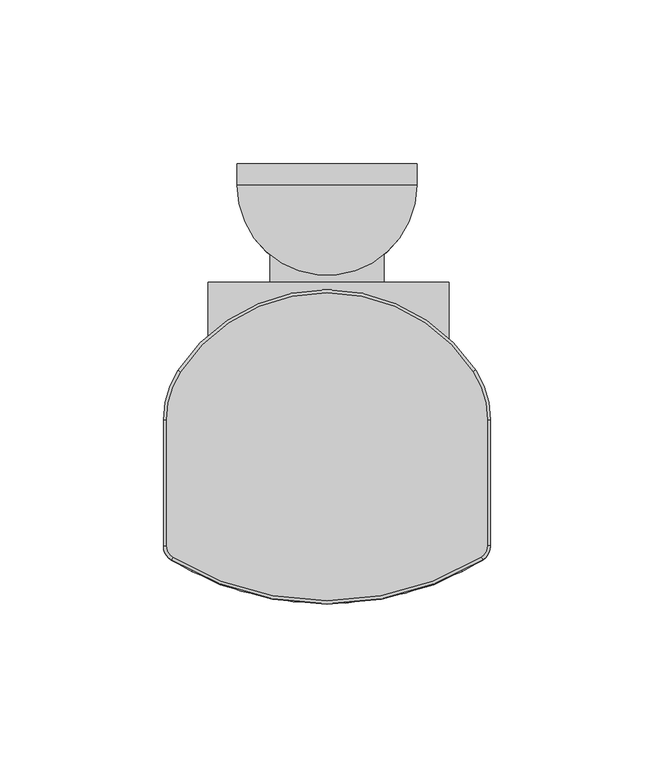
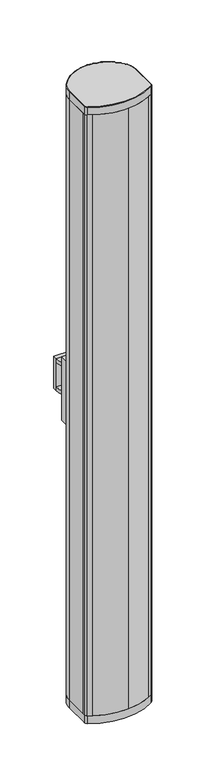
"""IFC4 building model written with IfcOpenShell, lengths in millimetres: proxy geometry, 230208 BIM Data_CU 350T VA-FR : CU 350T VA."""

from ifc_helpers import new_model, si_unit, point, frame, frame_2d, origin, origin_with_axes, place, context, project, spatial, polyline, circle_curve, ellipse_curve, trimmed, segment, composite_curve, outline, extrude, source, transform, mapped, element, save
from ifc_brep_helpers import plane_surface, cylinder_surface, revolved_surface, advanced_brep


def communication_devices_869d7f4c(model_context):
    return source(origin(), model_context, "Body", "SolidModel", [
        advanced_brep(
        [(49.0366046, 8.2957983, 971.015625), (44.6810661, 22.8924691, 971.015625), (-44.6804702, 22.8933787, 971.015625), (-49.0366046, 8.2952532, 971.015625), (-49.0366046, -30.2581238, 971.015625), (-47.1162782, -33.6954984, 971.015625), (47.1162782, -33.6954984, 971.015625), (49.0366046, -30.2581238, 971.015625), (47.6213592, -34.5158786, 958.5615517), (-47.6213592, -34.5158786, 958.5615517), (-50.0, -30.2581238, 958.5615517), (-50.0, 8.2952532, 958.5615517), (-45.4863233, 23.421329, 958.5615517), (45.48693, 23.420403, 958.5615517), (50.0, 8.2957983, 958.5615517), (50.0, -30.2581238, 958.5615517), (50.0, -30.2581238, 970.05223), (47.6213592, -34.5158786, 970.0522296), (50.0, 8.2957983, 970.0522305), (45.48693, 23.420403, 970.0522305), (-45.4863233, 23.421329, 970.0522305), (-50.0, 8.2952532, 970.0522305), (-50.0, -30.2581238, 970.0522296), (-47.6213592, -34.5158786, 970.05223)],
        [
            (0, 1, circle_curve(frame((22.4, 8.2957983, 971.015625), z_axis=(0.0, 0.0, 1.0), x_axis=(1.0, 0.0, 0.0)), 26.6366046)),
            (1, 2, circle_curve(frame((0.0, -6.3787879, 971.015625), z_axis=(0.0, 0.0, 1.0), x_axis=(0.8364829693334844, 0.5479929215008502, 0.0)), 53.4153925)),
            (2, 3, circle_curve(frame((-22.3981731, 8.2952532, 971.015625), z_axis=(0.0, 0.0, 1.0), x_axis=(-0.8364718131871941, 0.548009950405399, 0.0)), 26.6384315)),
            (3, 4),
            (4, 5, circle_curve(frame((-45.0, -30.2581238, 971.015625), z_axis=(0.0, 0.0, 1.0), x_axis=(-1.0, 0.0, 0.0)), 4.0366046)),
            (5, 6, circle_curve(frame((0.0, 42.8333333, 971.015625), z_axis=(0.0, 0.0, 1.0), x_axis=(-0.5242718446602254, -0.8515509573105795, 0.0)), 89.869938)),
            (6, 7, circle_curve(frame((45.0, -30.2581238, 971.015625), z_axis=(0.0, 0.0, 1.0), x_axis=(0.5242718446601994, -0.8515509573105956, 0.0)), 4.0366046)),
            (7, 0),
            (8, 9, circle_curve(frame((0.0, 42.8333333, 958.5615517), z_axis=(0.0, 0.0, -1.0), x_axis=(1.0, 0.0, 0.0)), 90.8333333)),
            (9, 10, circle_curve(frame((-45.0, -30.2581238, 958.5615517), z_axis=(0.0, 0.0, -1.0), x_axis=(1.0, 0.0, 0.0)), 5.0)),
            (10, 11),
            (11, 12, circle_curve(frame((-22.3981731, 8.2952532, 958.5615517), z_axis=(0.0, 0.0, -1.0), x_axis=(1.0, 0.0, 0.0)), 27.6018269)),
            (12, 13, circle_curve(frame((0.0, -6.3787879, 958.5615517), z_axis=(0.0, 0.0, -1.0), x_axis=(1.0, 0.0, 0.0)), 54.3787879)),
            (13, 14, circle_curve(frame((22.4, 8.2957983, 958.5615517), z_axis=(0.0, 0.0, -1.0), x_axis=(1.0, 0.0, 0.0)), 27.6)),
            (14, 15),
            (15, 8, circle_curve(frame((45.0, -30.2581238, 958.5615517), z_axis=(0.0, 0.0, -1.0), x_axis=(1.0, 0.0, 0.0)), 5.0)),
            (15, 16),
            (16, 17, circle_curve(frame((45.0, -30.2581238, 970.0522296), z_axis=(0.0, 0.0, -1.0), x_axis=(1.0, 0.0, 0.0)), 5.0)),
            (17, 8),
            (14, 18),
            (18, 16),
            (13, 19),
            (19, 18, circle_curve(frame((22.4, 8.2957983, 970.0522296), z_axis=(0.0, 0.0, -1.0), x_axis=(1.0, 0.0, 0.0)), 27.6)),
            (12, 20),
            (20, 19, circle_curve(frame((0.0, -6.3787879, 970.0522296), z_axis=(0.0, 0.0, -1.0), x_axis=(1.0, 0.0, 0.0)), 54.3787879)),
            (11, 21),
            (21, 20, circle_curve(frame((-22.3981731, 8.2952532, 970.0522296), z_axis=(0.0, 0.0, -1.0), x_axis=(1.0, 0.0, 0.0)), 27.6018269)),
            (10, 22),
            (22, 21),
            (9, 23),
            (23, 22, circle_curve(frame((-45.0, -30.2581238, 970.0522296), z_axis=(0.0, 0.0, -1.0), x_axis=(1.0, 0.0, 0.0)), 5.0)),
            (17, 23, circle_curve(frame((0.0, 42.8333333, 970.0522296), z_axis=(0.0, 0.0, -1.0), x_axis=(1.0, 0.0, 0.0)), 90.8333333)),
            (19, 1, circle_curve(frame((44.6810661, 22.8924691, 970.0522296), z_axis=(0.5479929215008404, -0.8364829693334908, 0.0), x_axis=(-0.8364829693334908, -0.5479929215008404, 0.0)), 0.9633954)),
            (0, 18, circle_curve(frame((49.0366046, 8.2957983, 970.0522296), z_axis=(0.0, 1.0, 0.0), x_axis=(-1.0, 0.0, 0.0)), 0.9633954)),
            (20, 2, circle_curve(frame((-44.6804702, 22.8933787, 970.0522296), z_axis=(0.548009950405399, 0.836471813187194, 0.0), x_axis=(0.836471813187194, -0.548009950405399, 0.0)), 0.9633954)),
            (21, 3, circle_curve(frame((-49.0366046, 8.2952532, 970.0522296), z_axis=(0.0, 1.0, 0.0), x_axis=(1.0, 0.0, 0.0)), 0.9633954)),
            (22, 4, circle_curve(frame((-49.0366046, -30.2581238, 970.0522296), z_axis=(0.0, 1.0, 0.0), x_axis=(1.0, 0.0, 0.0)), 0.9633954)),
            (23, 5, circle_curve(frame((-47.1162782, -33.6954984, 970.0522296), z_axis=(-0.8515509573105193, 0.5242718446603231, 0.0), x_axis=(0.5242718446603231, 0.8515509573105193, 0.0)), 0.9633954)),
            (17, 6, circle_curve(frame((47.1162782, -33.6954984, 970.0522296), z_axis=(-0.8515509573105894, -0.524271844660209, 0.0), x_axis=(-0.524271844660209, 0.8515509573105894, 0.0)), 0.9633954)),
            (16, 7, circle_curve(frame((49.0366046, -30.2581238, 970.0522296), z_axis=(0.0, -1.0, 0.0), x_axis=(-1.0, 0.0, 0.0)), 0.9633954)),
        ],
        [
            plane_surface(frame((50.0, -30.2581238, 971.015625), z_axis=(0.0, 0.0, 1.0), x_axis=(0.0, 1.0, 0.0))),
            plane_surface(frame((50.0, -30.2581238, 958.5615517), z_axis=(0.0, 0.0, -1.0), x_axis=(0.0, -1.0, 0.0))),
            cylinder_surface(frame((45.0, -30.2581238, 958.5615517), z_axis=(0.0, 0.0, 1.0), x_axis=(1.0, 0.0, 0.0)), 5.0),
            plane_surface(frame((50.0, -30.2581238, 971.015625), z_axis=(1.0, 0.0, 0.0), x_axis=(0.0, 0.0, -1.0))),
            cylinder_surface(frame((22.4, 8.2957983, 958.5615517), z_axis=(0.0, 0.0, 1.0), x_axis=(1.0, 0.0, 0.0)), 27.6),
            cylinder_surface(frame((0.0, -6.3787879, 958.5615517), z_axis=(0.0, 0.0, 1.0), x_axis=(1.0, 0.0, 0.0)), 54.3787879),
            cylinder_surface(frame((-22.3981731, 8.2952532, 958.5615517), z_axis=(0.0, 0.0, 1.0), x_axis=(1.0, 0.0, 0.0)), 27.6018269),
            plane_surface(frame((-50.0, 8.2952532, 971.015625), z_axis=(-1.0, 0.0, 0.0), x_axis=(0.0, 0.0, -1.0))),
            cylinder_surface(frame((-45.0, -30.2581238, 958.5615517), z_axis=(0.0, 0.0, 1.0), x_axis=(1.0, 0.0, 0.0)), 5.0),
            cylinder_surface(frame((0.0, 42.8333333, 958.5615517), z_axis=(0.0, 0.0, 1.0), x_axis=(1.0, 0.0, 0.0)), 90.8333333),
            revolved_surface(trimmed(ellipse_curve(frame((49.0366046, 8.2957983, 970.0522296), z_axis=(0.0, -1.0, 0.0), x_axis=(-1.0, 0.0, 0.0)), 0.9633954, 0.9633954), [point((50.0, 8.2957983, 970.0522296))], [point((49.0366046, 8.2957983, 971.015625))], True, "CARTESIAN"), (22.4, 8.2957983, 971.015625), (0.0, 0.0, 1.0)),
            revolved_surface(trimmed(ellipse_curve(frame((44.6810661, 22.8924691, 970.0522296), z_axis=(0.5479929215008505, -0.8364829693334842, 0.0), x_axis=(-0.8364829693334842, -0.5479929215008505, 0.0)), 0.9633954, 0.9633954), [point((45.48693, 23.420403, 970.0522296))], [point((44.6810661, 22.8924691, 971.015625))], True, "CARTESIAN"), (0.0, -6.3787879, 971.015625), (0.0, 0.0, 1.0)),
            revolved_surface(trimmed(ellipse_curve(frame((-44.6804702, 22.8933787, 970.0522296), z_axis=(0.5480099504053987, 0.8364718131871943, 0.0), x_axis=(0.8364718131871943, -0.5480099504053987, 0.0)), 0.9633954, 0.9633954), [point((-45.4863233, 23.421329, 970.0522296))], [point((-44.6804702, 22.8933787, 971.015625))], True, "CARTESIAN"), (-22.3981731, 8.2952532, 971.015625), (0.0, 0.0, 1.0)),
            cylinder_surface(frame((-49.0366046, 8.2952532, 970.0522296), z_axis=(0.0, -1.0, 0.0), x_axis=(1.0, 0.0, 0.0)), 0.9633954),
            revolved_surface(trimmed(ellipse_curve(frame((-49.0366046, -30.2581238, 970.0522296), z_axis=(0.0, 1.0, 0.0), x_axis=(1.0, 0.0, 0.0)), 0.9633954, 0.9633954), [point((-50.0, -30.2581238, 970.0522296))], [point((-49.0366046, -30.2581238, 971.015625))], True, "CARTESIAN"), (-45.0, -30.2581238, 971.015625), (0.0, 0.0, 1.0)),
            revolved_surface(trimmed(ellipse_curve(frame((-47.1162782, -33.6954984, 970.0522296), z_axis=(-0.8515509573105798, 0.5242718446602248, 0.0), x_axis=(0.5242718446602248, 0.8515509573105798, 0.0)), 0.9633954, 0.9633954), [point((-47.6213592, -34.5158786, 970.0522296))], [point((-47.1162782, -33.6954984, 971.015625))], True, "CARTESIAN"), (0.0, 42.8333333, 971.015625), (0.0, 0.0, 1.0)),
            revolved_surface(trimmed(ellipse_curve(frame((47.1162782, -33.6954984, 970.0522296), z_axis=(-0.8515509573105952, -0.5242718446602, 0.0), x_axis=(-0.5242718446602, 0.8515509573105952, 0.0)), 0.9633954, 0.9633954), [point((47.6213592, -34.5158786, 970.0522296))], [point((47.1162782, -33.6954984, 971.015625))], True, "CARTESIAN"), (45.0, -30.2581238, 971.015625), (0.0, 0.0, 1.0)),
            cylinder_surface(frame((49.0366046, -30.2581238, 970.0522296), z_axis=(0.0, 1.0, 0.0), x_axis=(-1.0, 0.0, 0.0)), 0.9633954),
        ],
        [
            (0, [[1, 2, 3, 4, 5, 6, 7, 8]]),
            (1, [[9, 10, 11, 12, 13, 14, 15, 16]]),
            (2, [[-16, 17, 18, 19]]),
            (3, [[-15, 20, 21, -17]]),
            (4, [[-14, 22, 23, -20]]),
            (5, [[-13, 24, 25, -22]]),
            (6, [[-12, 26, 27, -24]]),
            (7, [[-11, 28, 29, -26]]),
            (8, [[-10, 30, 31, -28]]),
            (9, [[-9, -19, 32, -30]]),
            (10, [[33, -1, 34, -23]]),
            (11, [[-33, -25, 35, -2]]),
            (12, [[-35, -27, 36, -3]]),
            (13, [[-36, -29, 37, -4]]),
            (14, [[-37, -31, 38, -5]]),
            (15, [[-38, -32, 39, -6]]),
            (16, [[-39, -18, 40, -7]]),
            (17, [[-34, -8, -40, -21]]),
        ],
    ),
        extrude(outline(polyline([(37.3588644, 26.5004942), (-36.3911356, 26.5004942), (-36.3911356, 50.3033408), (37.3588644, 50.3033408), (37.3588644, 26.5004942)])), frame((0.0, 0.0, 422.7248378), z_axis=(0.0, 0.0, 1.0), x_axis=(1.0, 0.0, 0.0)), (0.0, 0.0, 1.0), 100.0),
        extrude(outline(composite_curve([segment(trimmed(circle_curve(frame_2d((0.0, -6.3787879)), 54.3787879), [point((17.4349227, 45.1292313))], [point((-17.4349227, 45.1292313))], True, "CARTESIAN"), True, "CONTINUOUS"), segment(polyline([(-17.4349227, 45.1292313), (-17.4349227, 70.1292313), (17.4349227, 70.1292313), (17.4349227, 45.1292313)]), True, "CONTINUOUS")], self_intersect=False)), frame((0.0, 0.0, 453.5914338), z_axis=(0.0, 0.0, 1.0), x_axis=(1.0, 0.0, 0.0)), (0.0, 0.0, 1.0), 38.5347176),
        extrude(outline(composite_curve([segment(trimmed(circle_curve(frame_2d((0.0, 80.0522691)), 27.5), [point((27.5, 80.0522691))], [point((-27.5, 80.0522691))], False, "CARTESIAN"), True, "CONTINUOUS"), segment(polyline([(-27.5, 80.0522691), (27.5, 80.0522691)]), True, "CONTINUOUS")], self_intersect=False)), frame((0.0, 0.0, 447.8587926), z_axis=(0.0, 0.0, 1.0), x_axis=(1.0, 0.0, 0.0)), (0.0, 0.0, 1.0), 5.7326412),
        extrude(outline(composite_curve([segment(trimmed(circle_curve(frame_2d((0.0, 80.0522691)), 27.5), [point((27.5, 80.0522691))], [point((-27.5, 80.0522691))], False, "CARTESIAN"), True, "CONTINUOUS"), segment(polyline([(-27.5, 80.0522691), (27.5, 80.0522691)]), True, "CONTINUOUS")], self_intersect=False)), frame((0.0, 0.0, 492.1261514), z_axis=(0.0, 0.0, 1.0), x_axis=(1.0, 0.0, 0.0)), (0.0, 0.0, 1.0), 5.7326412),
        extrude(outline(polyline([(27.5, 80.0522691), (-27.5, 80.0522691), (-27.5, 86.5474187), (27.5, 86.5474187), (27.5, 80.0522691)])), frame((0.0, 0.0, 447.8587926), z_axis=(0.0, 0.0, 1.0), x_axis=(1.0, 0.0, 0.0)), (0.0, 0.0, 1.0), 50.0),
        extrude(outline(composite_curve([segment(trimmed(circle_curve(frame_2d((0.0, -6.3787879)), 54.3787879), [point((-45.4863233, 23.421329))], [point((45.48693, 23.420403))], False, "CARTESIAN"), True, "CONTINUOUS"), segment(trimmed(circle_curve(frame_2d((22.4, 8.2957983)), 27.6), [point((45.48693, 23.420403))], [point((50.0, 8.2957983))], False, "CARTESIAN"), True, "CONTINUOUS"), segment(polyline([(50.0, 8.2957983), (50.0, -27.000606), (41.2067722, -27.000606), (41.2067722, -38.1153935)]), True, "CONTINUOUS"), segment(trimmed(circle_curve(frame_2d((0.0, 42.8333333)), 90.8333333), [point((41.2067722, -38.1153935))], [point((5.6843649, -47.8219613))], False, "CARTESIAN"), True, "CONTINUOUS"), segment(trimmed(circle_curve(frame_2d((0.0, 42.8333333)), 90.8333333), [point((5.6843649, -47.8219613))], [point((-41.2067722, -38.1153935))], False, "CARTESIAN"), True, "CONTINUOUS"), segment(polyline([(-41.2067722, -38.1153935), (-41.2067722, -27.000606), (-50.0, -27.000606), (-50.0, 8.2952532)]), True, "CONTINUOUS"), segment(trimmed(circle_curve(frame_2d((-22.3981731, 8.2952532)), 27.6018269), [point((-50.0, 8.2952532))], [point((-45.4863233, 23.421329))], False, "CARTESIAN"), True, "CONTINUOUS")], self_intersect=False)), frame((0.0, 0.0, 12.4540733), z_axis=(0.0, 0.0, 1.0), x_axis=(1.0, 0.0, 0.0)), (0.0, 0.0, 1.0), 946.1074784),
        extrude(outline(composite_curve([segment(trimmed(circle_curve(frame_2d((-45.0, -30.2581238)), 5.0), [point((-47.6213592, -34.5158786))], [point((-50.0, -30.2581238))], False, "CARTESIAN"), True, "CONTINUOUS"), segment(polyline([(-50.0, -30.2581238), (-50.0, -27.000606), (-41.2067722, -27.000606), (-41.2067722, -38.1153935)]), True, "CONTINUOUS"), segment(trimmed(circle_curve(frame_2d((0.0, 42.8333333)), 90.8333333), [point((-41.2067722, -38.1153935))], [point((-47.6213592, -34.5158786))], False, "CARTESIAN"), True, "CONTINUOUS")], self_intersect=False)), frame((0.0, 0.0, 12.4540733), z_axis=(0.0, 0.0, 1.0), x_axis=(1.0, 0.0, 0.0)), (0.0, 0.0, 1.0), 946.1074784),
        extrude(outline(composite_curve([segment(trimmed(circle_curve(frame_2d((0.0, 42.8333333)), 90.8333333), [point((47.6213592, -34.5158786))], [point((41.2067722, -38.1153935))], False, "CARTESIAN"), True, "CONTINUOUS"), segment(polyline([(41.2067722, -38.1153935), (41.2067722, -27.000606), (50.0, -27.000606), (50.0, -30.2581238)]), True, "CONTINUOUS"), segment(trimmed(circle_curve(frame_2d((45.0, -30.2581238)), 5.0), [point((50.0, -30.2581238))], [point((47.6213592, -34.5158786))], False, "CARTESIAN"), True, "CONTINUOUS")], self_intersect=False)), frame((0.0, 0.0, 12.4540733), z_axis=(0.0, 0.0, 1.0), x_axis=(1.0, 0.0, 0.0)), (0.0, 0.0, 1.0), 946.1074784),
        extrude(outline(composite_curve([segment(trimmed(circle_curve(frame_2d((0.0, 42.8333333)), 90.8333333), [point((47.6213592, -34.5158786))], [point((-47.6213592, -34.5158786))], False, "CARTESIAN"), True, "CONTINUOUS"), segment(trimmed(circle_curve(frame_2d((-45.0, -30.2581238)), 5.0), [point((-47.6213592, -34.5158786))], [point((-50.0, -30.2581238))], False, "CARTESIAN"), True, "CONTINUOUS"), segment(polyline([(-50.0, -30.2581238), (-50.0, 8.2952532)]), True, "CONTINUOUS"), segment(trimmed(circle_curve(frame_2d((-22.3981731, 8.2952532)), 27.6018269), [point((-50.0, 8.2952532))], [point((-45.4863233, 23.421329))], False, "CARTESIAN"), True, "CONTINUOUS"), segment(trimmed(circle_curve(frame_2d((0.0, -6.3787879)), 54.3787879), [point((-45.4863233, 23.421329))], [point((45.48693, 23.420403))], False, "CARTESIAN"), True, "CONTINUOUS"), segment(trimmed(circle_curve(frame_2d((22.4, 8.2957983)), 27.6), [point((45.48693, 23.420403))], [point((50.0, 8.2957983))], False, "CARTESIAN"), True, "CONTINUOUS"), segment(polyline([(50.0, 8.2957983), (50.0, -30.2581238)]), True, "CONTINUOUS"), segment(trimmed(circle_curve(frame_2d((45.0, -30.2581238)), 5.0), [point((50.0, -30.2581238))], [point((47.6213592, -34.5158786))], False, "CARTESIAN"), True, "CONTINUOUS")], self_intersect=False)), origin_with_axes(), (0.0, 0.0, 1.0), 12.4540733),
    ])


if __name__ == "__main__":
    model = new_model("IFC4")
    model_context = context("Model", 3, world=origin())
    ifc_project = project(units=[si_unit("LENGTHUNIT", "METRE", prefix="MILLI")], contexts=[model_context])
    site = spatial("IfcSite", under=ifc_project)
    building = spatial("IfcBuilding", under=site)
    placement = place(None, origin())
    communication_devices_shape = communication_devices_869d7f4c(model_context)
    element("IfcBuildingElementProxy", 1, Name="230208 BIM Data_CU 350T VA-FR : CU 350T VA", ObjectType="230208 BIM Data_CU 350T VA-FR : CU 350T VA", at=placement, inside=building, context=model_context, shape_type="MappedRepresentation", body=[
        mapped(communication_devices_shape, transform((0.0, 0.0, 0.0), x_axis=(1.0, 0.0, 0.0), y_axis=(0.0, 1.0, 0.0), z_axis=(0.0, 0.0, 1.0))),
    ])
    save(model, "model.ifc")
